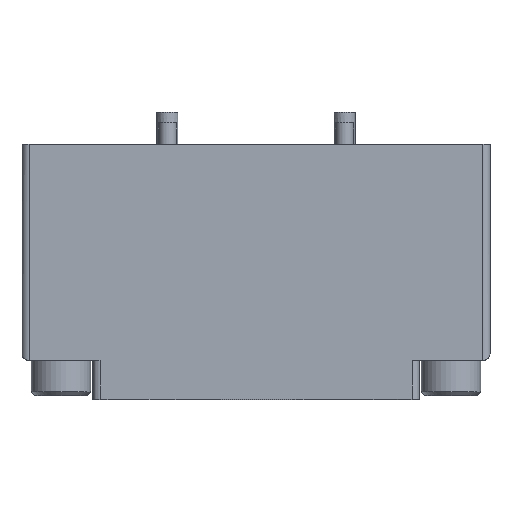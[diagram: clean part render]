
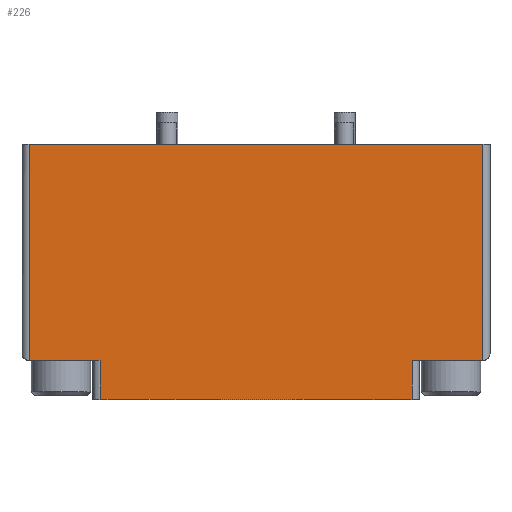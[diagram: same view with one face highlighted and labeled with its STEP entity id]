
A CAD part, top view. The second image highlights one B-rep face of the part: STEP entity #226.
In plain terms, the highlighted planar face has unit normal (0, 0, 1).
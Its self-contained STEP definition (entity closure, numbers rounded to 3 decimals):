
#226=ADVANCED_FACE('',(#592),#593,.F.);
#592=FACE_OUTER_BOUND('',#1165,.T.);
#593=PLANE('',#1166);
#1165=EDGE_LOOP('',(#1841,#1842,#1843,#1844,#1845,#1846,#1847,#1848));
#1166=AXIS2_PLACEMENT_3D('',#1849,#1850,#1851);
#1841=ORIENTED_EDGE('',*,*,#2928,.F.);
#1842=ORIENTED_EDGE('',*,*,#2932,.T.);
#1843=ORIENTED_EDGE('',*,*,#2933,.T.);
#1844=ORIENTED_EDGE('',*,*,#2846,.T.);
#1845=ORIENTED_EDGE('',*,*,#2934,.T.);
#1846=ORIENTED_EDGE('',*,*,#2935,.T.);
#1847=ORIENTED_EDGE('',*,*,#2936,.T.);
#1848=ORIENTED_EDGE('',*,*,#2937,.T.);
#1849=CARTESIAN_POINT('',(33.0,-36.0,15.0));
#1850=DIRECTION('',(0.0,0.0,-1.0));
#1851=DIRECTION('',(0.0,-1.0,0.0));
#2846=EDGE_CURVE('',#3284,#3285,#3286,.T.);
#2928=EDGE_CURVE('',#3420,#3422,#3423,.T.);
#2932=EDGE_CURVE('',#3420,#3427,#3428,.T.);
#2933=EDGE_CURVE('',#3427,#3284,#3429,.T.);
#2934=EDGE_CURVE('',#3285,#3430,#3431,.T.);
#2935=EDGE_CURVE('',#3430,#3432,#3433,.T.);
#2936=EDGE_CURVE('',#3432,#3434,#3435,.T.);
#2937=EDGE_CURVE('',#3434,#3422,#3436,.T.);
#3284=VERTEX_POINT('',#3985);
#3285=VERTEX_POINT('',#3986);
#3286=LINE('',#3987,#3988);
#3420=VERTEX_POINT('',#4172);
#3422=VERTEX_POINT('',#4174);
#3423=LINE('',#4175,#4176);
#3427=VERTEX_POINT('',#4180);
#3428=LINE('',#4181,#4182);
#3429=LINE('',#4183,#4184);
#3430=VERTEX_POINT('',#4185);
#3431=LINE('',#4186,#4187);
#3432=VERTEX_POINT('',#4188);
#3433=LINE('',#4189,#4190);
#3434=VERTEX_POINT('',#4191);
#3435=LINE('',#4192,#4193);
#3436=LINE('',#4194,#4195);
#3985=CARTESIAN_POINT('',(32.0,-30.5,15.0));
#3986=CARTESIAN_POINT('',(32.0,0.,15.0));
#3987=CARTESIAN_POINT('',(32.0,-36.0,15.0));
#3988=VECTOR('',#4840,1.0);
#4172=CARTESIAN_POINT('',(22.0,-36.0,15.0));
#4174=CARTESIAN_POINT('',(-22.0,-36.0,15.0));
#4175=CARTESIAN_POINT('',(33.0,-36.0,15.0));
#4176=VECTOR('',#4930,1.0);
#4180=CARTESIAN_POINT('',(22.0,-30.5,15.0));
#4181=CARTESIAN_POINT('',(22.0,-30.5,15.0));
#4182=VECTOR('',#4937,1.0);
#4183=CARTESIAN_POINT('',(23.0,-30.5,15.0));
#4184=VECTOR('',#4938,1.0);
#4185=CARTESIAN_POINT('',(-32.0,0.,15.0));
#4186=CARTESIAN_POINT('',(33.0,0.,15.0));
#4187=VECTOR('',#4939,1.0);
#4188=CARTESIAN_POINT('',(-32.0,-30.5,15.0));
#4189=CARTESIAN_POINT('',(-32.0,-36.0,15.0));
#4190=VECTOR('',#4940,1.0);
#4191=CARTESIAN_POINT('',(-22.0,-30.5,15.0));
#4192=CARTESIAN_POINT('',(-33.0,-30.5,15.0));
#4193=VECTOR('',#4941,1.0);
#4194=CARTESIAN_POINT('',(-22.0,-36.0,15.0));
#4195=VECTOR('',#4942,1.0);
#4840=DIRECTION('',(0.0,1.0,0.0));
#4930=DIRECTION('',(-1.0,0.0,0.0));
#4937=DIRECTION('',(0.0,1.0,0.0));
#4938=DIRECTION('',(1.0,0.0,0.0));
#4939=DIRECTION('',(-1.0,0.0,0.0));
#4940=DIRECTION('',(0.0,-1.0,0.0));
#4941=DIRECTION('',(1.0,0.0,0.0));
#4942=DIRECTION('',(0.0,-1.0,0.0));
